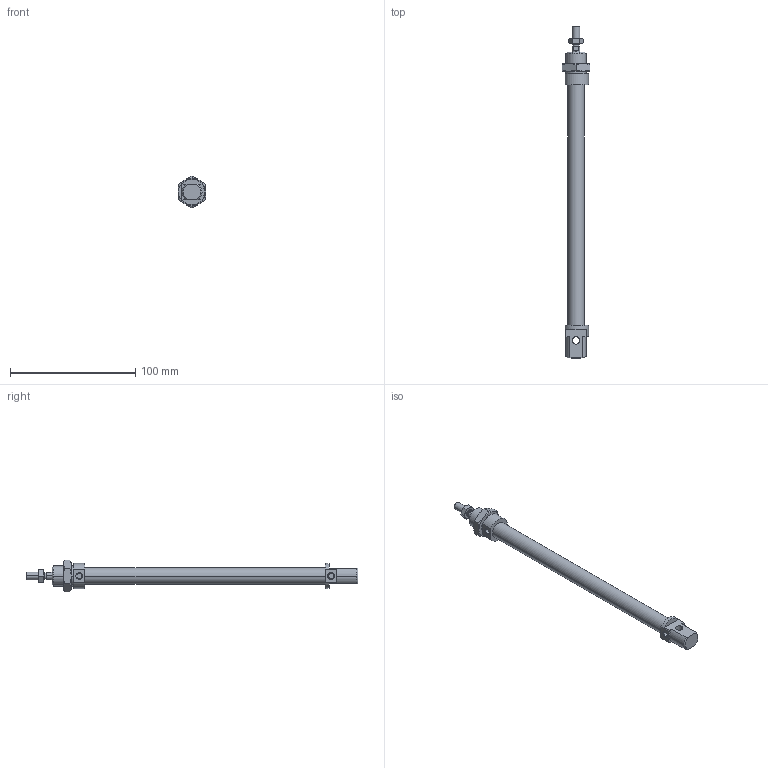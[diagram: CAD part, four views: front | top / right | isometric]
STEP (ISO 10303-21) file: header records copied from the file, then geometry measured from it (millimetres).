
FILE_DESCRIPTION((''),'2;1');
FILE_NAME('I:\DOC-EDP\Lib-3d\1200\CILINDRI\1280\1280_12_0160.stp','2003-04-07T14:50:40',('maffial1'),(''),'Autodesk Inventor (R) 6.0','Autodesk Inventor (R) 6.0','');
FILE_SCHEMA(('AUTOMOTIVE_DESIGN { 1 0 10303 214 1 1 1 1 }'));
Length unit declared in the file: millimetre
Products named in the file (5): 1280_12_0160; S1280_12_160; 1200_12_05; 1200_12_06; C1280_12_160
Assembly tree (4 placements, depth 2):
  1280_12_0160
    S1280_12_160
    1200_12_05
    1200_12_06
    C1280_12_160
Bounding box: 22 x 265 x 25.4 mm (x, y, z)
Volume: 39327 mm3; surface area: 20872.2 mm2
Topology: 4 solids, 4 shells, 121 faces, 268 edges, 162 vertices
Faces by surface type: cone 40, plane 39, cylinder 22, bspline 20
Entity records: 3653 total; most frequent: CARTESIAN_POINT 976, DIRECTION 556, ORIENTED_EDGE 536, EDGE_CURVE 268, AXIS2_PLACEMENT_3D 230, VERTEX_POINT 162, EDGE_LOOP 134, FACE_OUTER_BOUND 121
